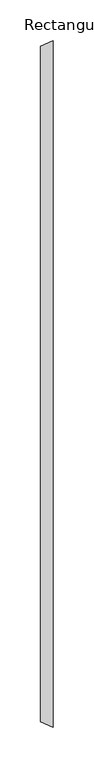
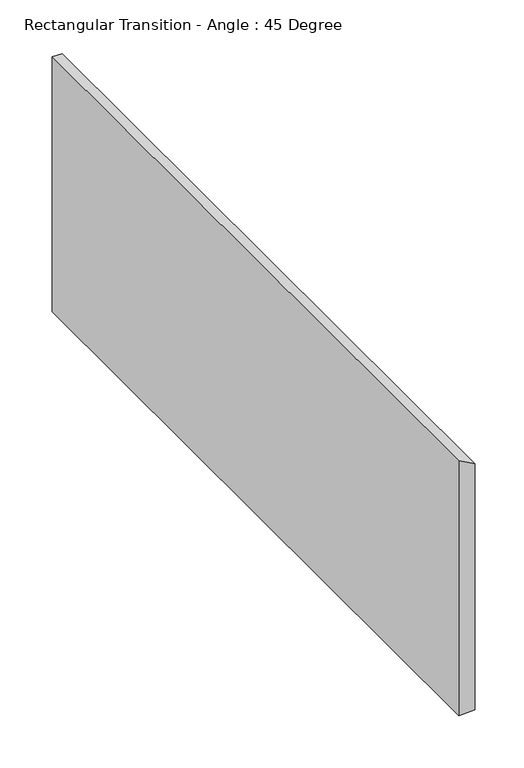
"""IFC4 building model written with IfcOpenShell, lengths in millimetres: duct fitting geometry, Rectangular Transition - Angle : 45 Degree."""

from ifc_helpers import new_model, si_unit, origin, place, context, project, spatial, faceted_brep, source, transform, mapped, element, save


def rectangular_transition_angle_45_degree_4921c507(model_context):
    return source(origin(), model_context, "Body", "Brep", [
        faceted_brep([(15.3302561, -419.1, 152.4), (15.3302561, -419.1, -152.4), (15.3302561, 419.1, -152.4), (15.3302561, 419.1, 152.4), (0.0, -412.75, 157.95625), (0.0, 412.75, 157.95625), (0.0, 412.75, -157.95625), (0.0, -412.75, -157.95625)], [[[0, 1, 2, 3]], [[4, 5, 6, 7]], [[4, 7, 1, 0]], [[7, 6, 2, 1]], [[6, 5, 3, 2]], [[5, 4, 0, 3]]]),
    ])


if __name__ == "__main__":
    model = new_model("IFC4")
    model_context = context("Model", 3, world=origin())
    ifc_project = project(units=[si_unit("LENGTHUNIT", "METRE", prefix="MILLI")], contexts=[model_context])
    site = spatial("IfcSite", under=ifc_project)
    building = spatial("IfcBuilding", under=site)
    placement = place(None, origin())
    rectangular_transition_angle_45_degree_shape = rectangular_transition_angle_45_degree_4921c507(model_context)
    element("IfcDuctFitting", 1, ObjectType="Rectangular Transition - Angle : 45 Degree", at=placement, inside=building, context=model_context, shape_type="MappedRepresentation", body=[
        mapped(rectangular_transition_angle_45_degree_shape, transform((0.0, 0.0, 0.0), x_axis=(1.0, 0.0, 0.0), y_axis=(0.0, 1.0, 0.0), z_axis=(0.0, 0.0, 1.0))),
    ])
    save(model, "model.ifc")
